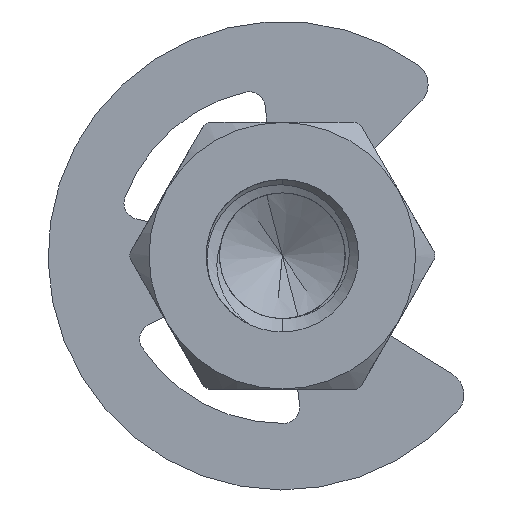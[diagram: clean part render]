
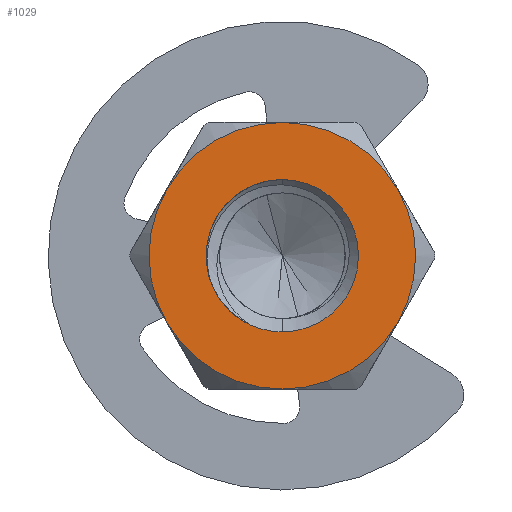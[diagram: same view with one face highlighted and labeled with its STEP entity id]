
A CAD part, front view. The second image highlights one B-rep face of the part: STEP entity #1029.
In plain terms, the highlighted planar face has unit normal (0, -1, 0).
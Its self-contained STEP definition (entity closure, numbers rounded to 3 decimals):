
#70 = EDGE_CURVE ( 'NONE', #11797, #3357, #8529, .T. ) ;
#163 = FACE_OUTER_BOUND ( 'NONE', #10369, .T. ) ;
#449 = EDGE_CURVE ( 'NONE', #12525, #5954, #3435, .T. ) ;
#916 = DIRECTION ( 'NONE',  ( 0., 1., 0. ) ) ;
#1008 = ORIENTED_EDGE ( 'NONE', *, *, #70, .T. ) ;
#1029 = ADVANCED_FACE ( 'NONE', ( #7680, #163 ), #12407, .F. ) ;
#1042 = CARTESIAN_POINT ( 'NONE',  ( 0., 0., -3.5 ) ) ;
#1247 = EDGE_CURVE ( 'NONE', #4880, #12194, #9131, .T. ) ;
#1308 = ORIENTED_EDGE ( 'NONE', *, *, #449, .F. ) ;
#1420 = CIRCLE ( 'NONE', #12654, 3.5 ) ;
#1893 = DIRECTION ( 'NONE',  ( 0., 0., 1. ) ) ;
#2583 = CIRCLE ( 'NONE', #4539, 3.5 ) ;
#2684 = DIRECTION ( 'NONE',  ( 0., 1., 0. ) ) ;
#2710 = CIRCLE ( 'NONE', #9614, 2. ) ;
#2758 = AXIS2_PLACEMENT_3D ( 'NONE', #8770, #6667, #12847 ) ;
#2905 = AXIS2_PLACEMENT_3D ( 'NONE', #4839, #2684, #13055 ) ;
#2931 = CARTESIAN_POINT ( 'NONE',  ( -3.031, 0., 1.75 ) ) ;
#2981 = DIRECTION ( 'NONE',  ( 0., 0., 1. ) ) ;
#2982 = CARTESIAN_POINT ( 'NONE',  ( -3.031, 0., -1.75 ) ) ;
#3062 = CARTESIAN_POINT ( 'NONE',  ( 3.031, 0., -1.75 ) ) ;
#3224 = EDGE_CURVE ( 'NONE', #4650, #12525, #11031, .T. ) ;
#3281 = ORIENTED_EDGE ( 'NONE', *, *, #12245, .T. ) ;
#3323 = EDGE_CURVE ( 'NONE', #11625, #4880, #13362, .T. ) ;
#3337 = CARTESIAN_POINT ( 'NONE',  ( 0., 0., 0. ) ) ;
#3357 = VERTEX_POINT ( 'NONE', #10398 ) ;
#3435 = CIRCLE ( 'NONE', #7801, 3.5 ) ;
#3927 = AXIS2_PLACEMENT_3D ( 'NONE', #13320, #916, #11356 ) ;
#4151 = DIRECTION ( 'NONE',  ( 0., 0., 1. ) ) ;
#4241 = CARTESIAN_POINT ( 'NONE',  ( -1.863, 0., -0.728 ) ) ;
#4447 = VERTEX_POINT ( 'NONE', #4241 ) ;
#4530 = CARTESIAN_POINT ( 'NONE',  ( 0., 0., 0. ) ) ;
#4539 = AXIS2_PLACEMENT_3D ( 'NONE', #10244, #8148, #1893 ) ;
#4650 = VERTEX_POINT ( 'NONE', #12777 ) ;
#4752 = EDGE_CURVE ( 'NONE', #12194, #4650, #2583, .T. ) ;
#4810 = DIRECTION ( 'NONE',  ( 0., 0., 1. ) ) ;
#4839 = CARTESIAN_POINT ( 'NONE',  ( 0., 0., 0. ) ) ;
#4880 = VERTEX_POINT ( 'NONE', #2982 ) ;
#5079 = DIRECTION ( 'NONE',  ( 0., 0., 1. ) ) ;
#5167 = ORIENTED_EDGE ( 'NONE', *, *, #5943, .F. ) ;
#5389 = DIRECTION ( 'NONE',  ( 0., 0., 1. ) ) ;
#5436 = CARTESIAN_POINT ( 'NONE',  ( 3.031, 0., 1.75 ) ) ;
#5933 = DIRECTION ( 'NONE',  ( 0., 1., 0. ) ) ;
#5943 = EDGE_CURVE ( 'NONE', #5954, #11625, #1420, .T. ) ;
#5954 = VERTEX_POINT ( 'NONE', #3062 ) ;
#6183 = DIRECTION ( 'NONE',  ( 0., 1., 0. ) ) ;
#6207 = AXIS2_PLACEMENT_3D ( 'NONE', #3337, #10637, #10858 ) ;
#6642 = CIRCLE ( 'NONE', #7878, 2. ) ;
#6667 = DIRECTION ( 'NONE',  ( 0., 1., 0. ) ) ;
#7680 = FACE_BOUND ( 'NONE', #11952, .T. ) ;
#7752 = AXIS2_PLACEMENT_3D ( 'NONE', #12192, #11065, #8024 ) ;
#7801 = AXIS2_PLACEMENT_3D ( 'NONE', #7952, #5933, #4810 ) ;
#7878 = AXIS2_PLACEMENT_3D ( 'NONE', #8488, #12512, #4151 ) ;
#7952 = CARTESIAN_POINT ( 'NONE',  ( 0., 0., 0. ) ) ;
#8024 = DIRECTION ( 'NONE',  ( 0., 0., 1. ) ) ;
#8091 = ORIENTED_EDGE ( 'NONE', *, *, #4752, .F. ) ;
#8111 = ORIENTED_EDGE ( 'NONE', *, *, #3224, .F. ) ;
#8148 = DIRECTION ( 'NONE',  ( 0., 1., 0. ) ) ;
#8333 = DIRECTION ( 'NONE',  ( 0., 1., 0. ) ) ;
#8488 = CARTESIAN_POINT ( 'NONE',  ( 0., 0., 0. ) ) ;
#8529 = CIRCLE ( 'NONE', #2905, 2. ) ;
#8614 = CARTESIAN_POINT ( 'NONE',  ( 0., 0., 2. ) ) ;
#8770 = CARTESIAN_POINT ( 'NONE',  ( 0., 0., 0. ) ) ;
#9131 = CIRCLE ( 'NONE', #2758, 3.5 ) ;
#9285 = CARTESIAN_POINT ( 'NONE',  ( -0.833, 0., -1.818 ) ) ;
#9312 = AXIS2_PLACEMENT_3D ( 'NONE', #11424, #6183, #2981 ) ;
#9614 = AXIS2_PLACEMENT_3D ( 'NONE', #4530, #11646, #5389 ) ;
#9792 = VERTEX_POINT ( 'NONE', #9285 ) ;
#10244 = CARTESIAN_POINT ( 'NONE',  ( 0., 0., 0. ) ) ;
#10293 = ORIENTED_EDGE ( 'NONE', *, *, #11675, .T. ) ;
#10369 = EDGE_LOOP ( 'NONE', ( #8111, #8091, #10677, #12629, #5167, #1308 ) ) ;
#10398 = CARTESIAN_POINT ( 'NONE',  ( 0., 0., -2. ) ) ;
#10456 = EDGE_CURVE ( 'NONE', #9792, #4447, #13078, .T. ) ;
#10637 = DIRECTION ( 'NONE',  ( 0., 1., 0. ) ) ;
#10677 = ORIENTED_EDGE ( 'NONE', *, *, #1247, .F. ) ;
#10858 = DIRECTION ( 'NONE',  ( 0., 0., 1. ) ) ;
#11031 = CIRCLE ( 'NONE', #7752, 3.5 ) ;
#11065 = DIRECTION ( 'NONE',  ( 0., 1., 0. ) ) ;
#11242 = ORIENTED_EDGE ( 'NONE', *, *, #10456, .T. ) ;
#11327 = CARTESIAN_POINT ( 'NONE',  ( 0., 0., 0. ) ) ;
#11356 = DIRECTION ( 'NONE',  ( 0., 0., 1. ) ) ;
#11424 = CARTESIAN_POINT ( 'NONE',  ( 0., 0., 0. ) ) ;
#11625 = VERTEX_POINT ( 'NONE', #1042 ) ;
#11646 = DIRECTION ( 'NONE',  ( 0., 1., 0. ) ) ;
#11675 = EDGE_CURVE ( 'NONE', #4447, #11797, #6642, .T. ) ;
#11797 = VERTEX_POINT ( 'NONE', #8614 ) ;
#11952 = EDGE_LOOP ( 'NONE', ( #11242, #10293, #1008, #3281 ) ) ;
#12192 = CARTESIAN_POINT ( 'NONE',  ( 0., 0., 0. ) ) ;
#12194 = VERTEX_POINT ( 'NONE', #2931 ) ;
#12245 = EDGE_CURVE ( 'NONE', #3357, #9792, #2710, .T. ) ;
#12407 = PLANE ( 'NONE',  #9312 ) ;
#12512 = DIRECTION ( 'NONE',  ( 0., 1., 0. ) ) ;
#12525 = VERTEX_POINT ( 'NONE', #5436 ) ;
#12629 = ORIENTED_EDGE ( 'NONE', *, *, #3323, .F. ) ;
#12654 = AXIS2_PLACEMENT_3D ( 'NONE', #11327, #8333, #5079 ) ;
#12777 = CARTESIAN_POINT ( 'NONE',  ( 0., 0., 3.5 ) ) ;
#12847 = DIRECTION ( 'NONE',  ( 0., 0., 1. ) ) ;
#13055 = DIRECTION ( 'NONE',  ( 0., 0., 1. ) ) ;
#13078 = CIRCLE ( 'NONE', #6207, 2. ) ;
#13320 = CARTESIAN_POINT ( 'NONE',  ( 0., 0., 0. ) ) ;
#13362 = CIRCLE ( 'NONE', #3927, 3.5 ) ;
